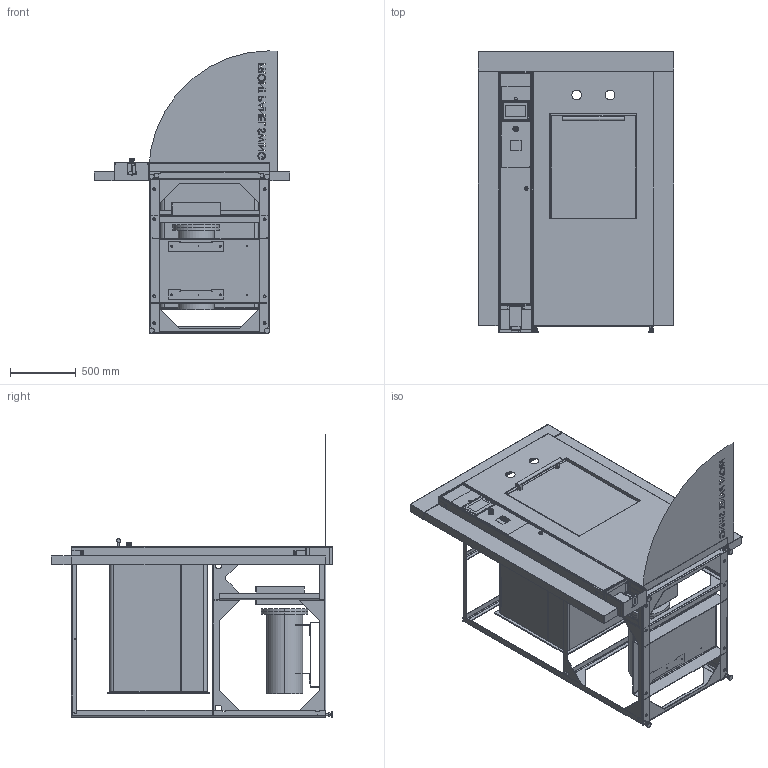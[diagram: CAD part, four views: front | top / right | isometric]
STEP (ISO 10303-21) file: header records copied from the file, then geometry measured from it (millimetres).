
FILE_DESCRIPTION (( 'STEP AP203' ), '1' );
FILE_NAME ('26AV-HC - BUMP OUT - LEFT CONTROLS.STEP', '2026-02-13T15:29:29', ( '' ), ( '' ), 'SwSTEP 2.0', 'SolidWorks 2024', '' );
FILE_SCHEMA (( 'CONFIG_CONTROL_DESIGN' ));
Length unit declared in the file: inch
Products named in the file (77): REVIT - PROGEN CHAMBER & PANEL ASSM_Right Hinge; REVIT - 26 SQ VERTICAL DOOR - WELDMENT_Welded Assem; REVIT - 26 SQ VERTICAL FRAME_-01, 26AV; REVIT - REVIT - X1 CONTROL COLUMN BACK_-01, 70" LEFT HINGE; REVIT - 26 SQ VERTICAL FRAME - BOTTOM - CROSSMEMBER_back; REVIT - PROGEN CHAMBER BLANK; REVIT - GS2107-WTBD_Av2_Config1; REVIT - SR-26A CHAMBER - TOP_316L SS; REVIT - 26 SQ VERTICAL FRAME - AIR COMPRESSOR SUPPORT; RIVET - RIVET - Foot Pedal Enclosure - Bottom_-01, 76" LEFT HINGE; REVIT - Southco-E5-6-005-UU1_Nut_clf; REVIT - 26 SQ VERTICAL FRAME - MIDDLE - FRONT CROSSMEMBER_Middle Frame Support; REVIT - PROGEN PANEL ASSM_Right; REVIT - 26 SQ VERTICAL FRAME - TOP_-01, 26AV Left; REVIT - PROGEN REAR HEAD; REVIT - 26 SQ VERTICAL FRAME - MIDDLE_-01 - 26AV LEFT; REVIT - 26 SQ VERT DOOR ENDRING - BLANK_Waterjet Cut; REVIT - 26 SQ VERTICAL FRAME - BACK UPRIGHT_Rear Upright; REVIT - 26 SQ VERTICAL DOOR - ANGLE; REVIT - 26 SQ VERTICAL FRAME - MIDDLE - REAR CROSSMEMBER; REVIT - 26AV CHAMBER WELDMENT_26AV; REVIT - 26 SQ VERTICAL FRAME - TOP - CROSSMEMBER; REVIT - 26 SQ Vertical Door; RIVET - RIVET - Foot Pedal Enclosure_High; REVIT - REVIT - X1 CONTROL COLUMN END_Config1; REVIT - SR-26A JACKET - TOP_Config1; REVIT - PROGEN CHAMBER; REVIT - 26 SQ VERTICAL FRAME - FRONT UPRIGHT_-01, Left; REVIT - SR-26A CHAMBER - BOTTOM_CHAMBER DIMPLING FEATURE FOR VESSEL ASSEMBLY; REVIT - REVIT - X1 CONTROL COLUMN RIVET PLATE_Config1; REVIT - REVIT - X1 CONTROL COLUMN BOX_70 Left CLosed; REVIT - Southco-E5-6-005-UU1_Sealing-Washer_clf; REVIT - 26 SQ VERTICAL FRAME - FRONT UPRIGHT_-02, RIGHT; REVIT - REVIT - X1 Control Column Door_-01, 70" LEFT HINGE; REVIT - PROGEN PANEL COVER; REVIT - 26 SQ VERTICAL FRAME - TOP_-02, 26AV Right; RIVET - Foot Pedal_Config1; SIDE BUMP OUT TRIM_Side; REVIT - 26 x 26 BACKHEAD_92250-01 - S.S. SA-240-316L; REVIT - 26 SQ VERTICAL DOOR KIT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
Assembly tree (90 placements, depth 5):
  26AV-HC - BUMP OUT - LEFT CONTROLS
    REVIT - 26 SQ VERTICAL FRAME_-01, 26AV
      REVIT - 26 SQ VERTICAL FRAME - FRONT UPRIGHT_-01, Left
      REVIT - 26 SQ VERTICAL FRAME - FRONT UPRIGHT_-02, RIGHT
      REVIT - 26 SQ VERTICAL FRAME - MIDDLE UPRIGHT  x2
      REVIT - 26 SQ VERTICAL FRAME - BACK UPRIGHT_Rear Upright  x2
      REVIT - 26 SQ VERTICAL FRAME - BOTTOM_-01, LEFT
      REVIT - 26 SQ VERTICAL FRAME - BOTTOM_-02, RIGHT
      REVIT - 26 SQ VERTICAL FRAME - BOTTOM - CROSSMEMBER
      REVIT - 26 SQ VERTICAL FRAME - BOTTOM - CROSSMEMBER_back
      REVIT - 26 SQ VERTICAL FRAME - MIDDLE_-01 - 26AV LEFT
      REVIT - 26 SQ VERTICAL FRAME - MIDDLE_-02 - 26AV Right
      REVIT - 26 SQ VERTICAL FRAME - MIDDLE - FRONT CROSSMEMBER_Middle Frame Support
      REVIT - 26 SQ VERTICAL FRAME - MIDDLE - REAR CROSSMEMBER
      REVIT - 26 SQ VERTICAL FRAME - TOP_-01, 26AV Left
      REVIT - 26 SQ VERTICAL FRAME - TOP_-02, 26AV Right
      REVIT - 26 SQ VERTICAL FRAME - TOP - CROSSMEMBER  x2
      REVIT - 26 SQ VERTICAL FRAME - AIR COMPRESSOR SUPPORT
      REVIT - 26 SQ VERTICAL FRAME - GENERATOR SUPPORT_Config1
      REVIT - NUT, COUPLING, .75-10, UNCOATED_90264A243  x4
      REVIT - 26 SQ VERTICAL FRAME - BOTTOM - MID-CROSSMEMBER_Config1
    REVIT - FOOT, POLYMOUNT .75-10 1.58_Config1  x4
    REVIT - 26AV CHAMBER WELDMENT_26AV
      REVIT - 26 SQ VERT DOOR ENDRING - MACHINED
        REVIT - 26 SQ VERT DOOR ENDRING - BLANK_Waterjet Cut
      REVIT - 26 x 26 BACKHEAD_92250-01 - S.S. SA-240-316L
      REVIT - SR-26A CHAMBER - TOP_316L SS
      REVIT - SR-26A CHAMBER - BOTTOM_CHAMBER DIMPLING FEATURE FOR VESSEL ASSEMBLY
      REVIT - SR-26A JACKET - TOP_Config1
      REVIT - SR-26A JACKET - BOTTOM_Config1
    REVIT - 26 SQ VERTICAL DOOR KIT
      REVIT - 26 SQ VERT DOOR ENDRING - MACHINED
        REVIT - 26 SQ VERT DOOR ENDRING - BLANK_Waterjet Cut
      REVIT - 26 SQ VERTICAL DOOR - WELDMENT_Welded Assem
        REVIT - 26 SQ Vertical Door
          REVIT - 26 SQ VERTICAL DOOR - BLANK_FEA
        REVIT - 26 SQ VERTICAL DOOR - ANGLE
      Assem2^REVIT - 26 SQ VERTICAL DOOR KIT
        REVIT - 26 SQ VERTICAL DOOR - COVER
        REVIT - VERTICAL DOOR HANDLE_3743N115
    REVIT - PROGEN CHAMBER & PANEL ASSM_Right Hinge
      REVIT - PROGEN FACE PLATE
      REVIT - PROGEN CHAMBER WELDMENT
        REVIT - PROGEN CHAMBER
          REVIT - PROGEN CHAMBER BLANK
        91146 - PROGEN WATER BAFFLE
        REVIT - PROGEN RING FLANGE
        REVIT - PROGEN FOOT_PLUMBING CLEARANCE FOR BIOSEAL  x2
        REVIT - PROGEN REAR HEAD
      REVIT - PROGEN PANEL ASSM_Right
        REVIT - PROGEN ELECTRICAL PANEL
        REVIT - PROGEN PANEL COVER
    REVIT - 26V FRONT PANEL_-01, RIGHT HINGE
    REVIT - REVIT - X1 CONTROL COLUMN ASSEMBLY_-01, 70 left Closed
      REVIT - REVIT - X1 CONTROL COLUMN BOX_70 Left CLosed
        REVIT - REVIT - X1 CONTROL COLUMN BACK_-01, 70" LEFT HINGE
        REVIT - REVIT - X1 Control Column Door_-01, 70" LEFT HINGE
        REVIT - REVIT - X1 CONTROL COLUMN RIVET PLATE_Config1  x2
        REVIT - REVIT - X1 CONTROL COLUMN END_Config1  x2
      REVIT - Control Column Overlay_-01
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Bounding box: 1483.51 x 2133.6 x 2143.66 mm (x, y, z)
Volume: 101377690.8 mm3; surface area: 37628698.4 mm2
Topology: 80 solids, 80 shells, 5653 faces, 15269 edges, 9840 vertices
Faces by surface type: plane 3543, cylinder 1592, bspline 287, cone 125, torus 97, sphere 9
Entity records: 204909 total; most frequent: CARTESIAN_POINT 76054, ORIENTED_EDGE 26728, DIRECTION 22228, EDGE_CURVE 13364, LINE 9310, VECTOR 9310, VERTEX_POINT 8625, AXIS2_PLACEMENT_3D 6459
